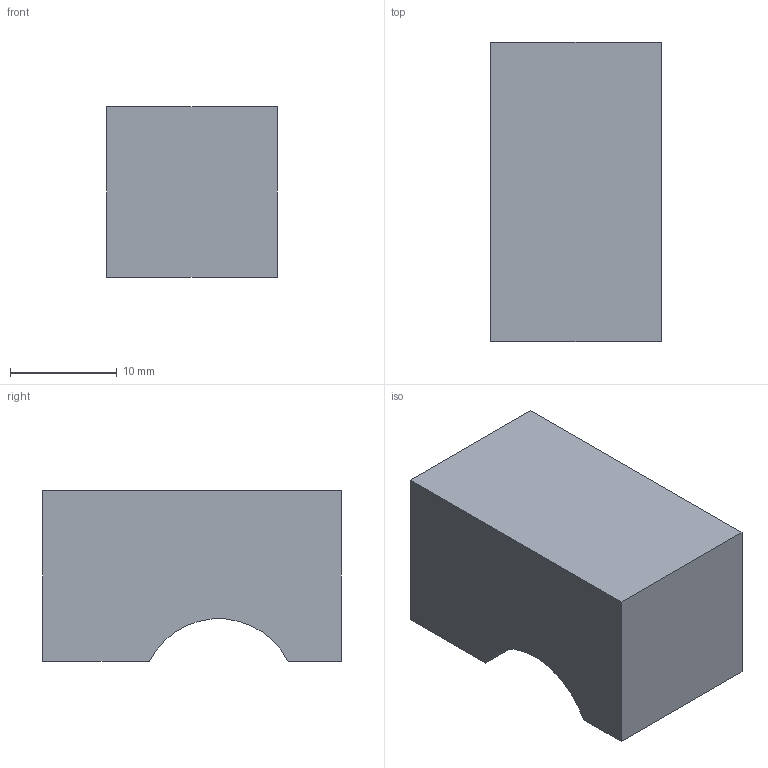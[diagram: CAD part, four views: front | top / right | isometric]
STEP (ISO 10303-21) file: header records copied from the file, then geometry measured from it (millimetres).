
FILE_DESCRIPTION( ( 'STEP AP214' ), '1' );
FILE_NAME( 'C:/Users/swati/Swati/Swati/handle/9208070/9208070.stp', ' ', ( ' ' ), ( ' ' ), 'PSStep 15.0.47', 'PARTsolutions', ' ' );
FILE_SCHEMA( ( 'AUTOMOTIVE_DESIGN { 1 0 10303 214 1 1 1 1 }' ) );
Length unit declared in the file: millimetre
Products named in the file (2): 95 ; _
Assembly tree (1 placements, depth 2):
  95 
    _
Bounding box: 16 x 28 x 16 mm (x, y, z)
Volume: 6447.7 mm3; surface area: 2404.4 mm2
Topology: 1 solids, 1 shells, 10 faces, 21 edges, 14 vertices
Faces by surface type: plane 8, cylinder 2
Full cylindrical faces by diameter (mm): 4 x1
Entity records: 382 total; most frequent: DIRECTION 48, CARTESIAN_POINT 46, ORIENTED_EDGE 40, EDGE_CURVE 20, AXIS2_PLACEMENT_3D 16, LINE 16, VECTOR 16, VERTEX_POINT 14
